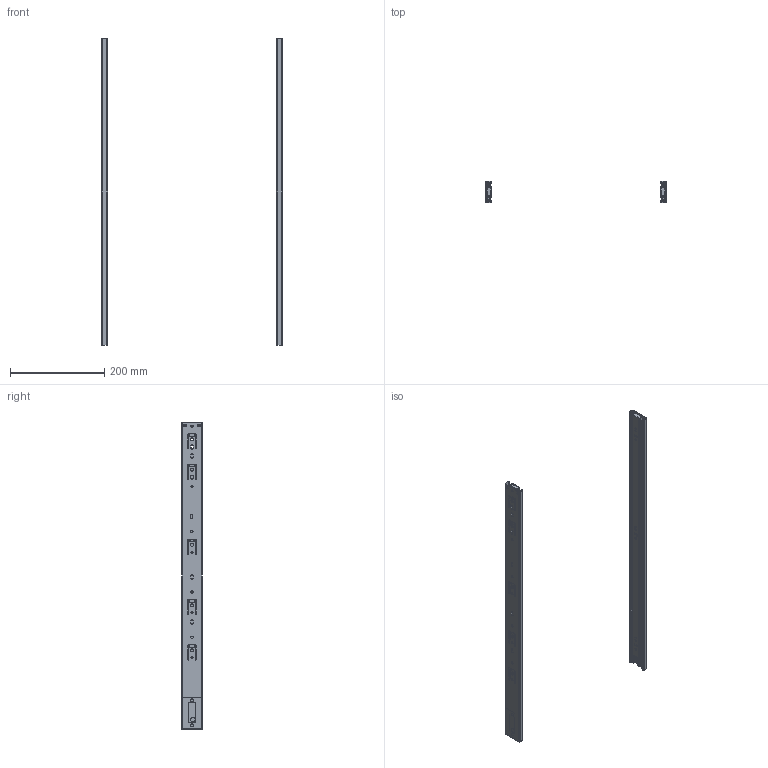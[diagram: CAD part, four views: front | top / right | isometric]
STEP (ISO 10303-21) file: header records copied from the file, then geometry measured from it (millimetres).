
FILE_DESCRIPTION(/* description */ (''),/* implementation_level */ '2;1');
FILE_NAME(/* name */ 'D:\$Workingspace\Designs\Katalog\Cadsoft\GTV Prowadnice\PK-S-H45-\PK-S-H45-650.stp',/* time_stamp */ '2018-09-20T13:09:27+02:00',/* author */ ('tomaszw'),/* organization */ (''),/* preprocessor_version */ 'ST-DEVELOPER v17',/* originating_system */ 'Autodesk Inventor 2019',/* authorisation */ '');
FILE_SCHEMA (('AUTOMOTIVE_DESIGN { 1 0 10303 214 3 1 1 }'));
Length unit declared in the file: millimetre
Products named in the file (6): PK-S-H45-650; PK-S-H45_1-650; PK-S-H45_2-650; PK-S-H45_3-650; PK-S-H45_4; PK-S-H45_5
Assembly tree (10 placements, depth 2):
  PK-S-H45-650
    PK-S-H45_1-650  x2
    PK-S-H45_2-650  x2
    PK-S-H45_3-650  x2
    PK-S-H45_4  x2
    PK-S-H45_5  x2
Bounding box: 384 x 44.5 x 650 mm (x, y, z)
Volume: 230355.7 mm3; surface area: 417562.5 mm2
Topology: 14 solids, 14 shells, 678 faces, 1908 edges, 1260 vertices
Faces by surface type: plane 350, cylinder 316, bspline 8, torus 4
Full cylindrical faces by diameter (mm): 4 x8, 4.5 x14, 4.9 x2, 5 x8, 6 x4, 6.4 x10, 10 x2
Entity records: 11867 total; most frequent: CARTESIAN_POINT 2076, DIRECTION 1970, ORIENTED_EDGE 1908, EDGE_CURVE 954, AXIS2_PLACEMENT_3D 674, VERTEX_POINT 630, LINE 622, VECTOR 622
